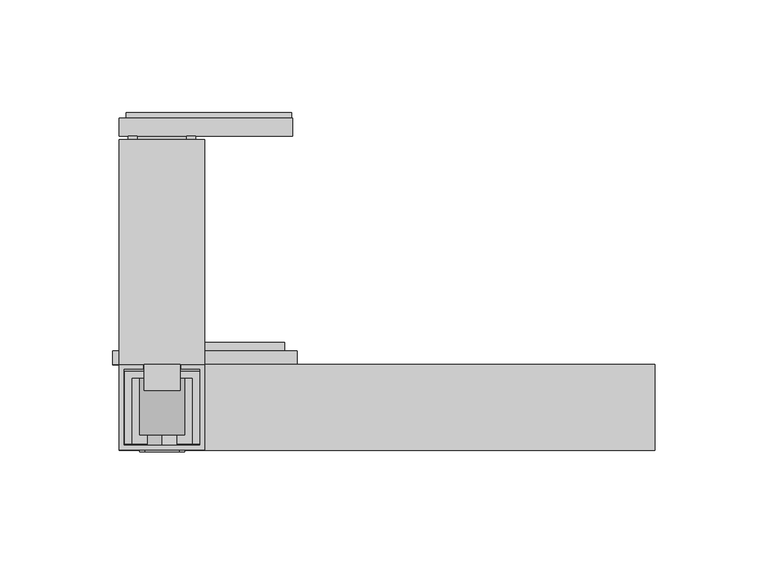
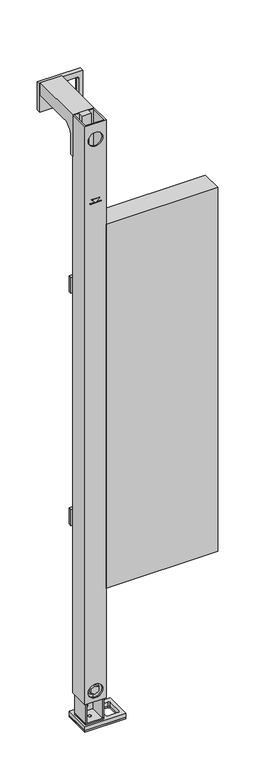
"""IFC4 building model written with IfcOpenShell, lengths in millimetres: flow terminal geometry, nextVIT Stütz-Stützklappgriff-Element : nextVIT Stütz-Stützklappgriff-Element."""

from ifc_helpers import new_model, si_unit, point, frame, frame_2d, origin, origin_with_axes, place, context, project, spatial, polyline, circle_curve, trimmed, segment, composite_curve, outline, extrude, source, transform, mapped, element, save
from ifc_brep_helpers import plane_surface, revolved_surface, advanced_brep


def flow_terminal_d5ac6e44(model_context):
    return source(origin(), model_context, "Body", "SolidModel", [
        extrude(outline(polyline([(-45.5, -102.0), (-45.5, -150.0), (-119.0, -150.0), (-119.0, -102.0), (-45.5, -102.0)]), holes=[composite_curve([segment(polyline([(-52.0, -139.0), (-52.0, -113.0)]), True, "CONTINUOUS"), segment(trimmed(circle_curve(frame_2d((-55.0, -113.0)), 3.0), [point((-52.0, -113.0))], [point((-55.0, -110.0))], True, "CARTESIAN"), True, "CONTINUOUS"), segment(polyline([(-55.0, -110.0), (-72.5, -110.0)]), True, "CONTINUOUS"), segment(trimmed(circle_curve(frame_2d((-72.5, -113.0)), 3.0), [point((-72.5, -110.0))], [point((-75.5, -113.0))], True, "CARTESIAN"), True, "CONTINUOUS"), segment(polyline([(-75.5, -113.0), (-75.5, -139.0)]), True, "CONTINUOUS"), segment(trimmed(circle_curve(frame_2d((-72.5, -139.0)), 3.0), [point((-75.5, -139.0))], [point((-72.5, -142.0))], True, "CARTESIAN"), True, "CONTINUOUS"), segment(polyline([(-72.5, -142.0), (-55.0, -142.0)]), True, "CONTINUOUS"), segment(trimmed(circle_curve(frame_2d((-55.0, -139.0)), 3.0), [point((-55.0, -142.0))], [point((-52.0, -139.0))], True, "CARTESIAN"), True, "CONTINUOUS")], self_intersect=False)]), origin_with_axes(), (0.0, 0.0, 1.0), 2.5),
        extrude(outline(polyline([(-45.5, -102.0), (-45.5, -150.0), (-119.0, -150.0), (-119.0, -102.0), (-45.5, -102.0)]), holes=[composite_curve([segment(polyline([(-52.0, -139.0), (-52.0, -113.0)]), True, "CONTINUOUS"), segment(trimmed(circle_curve(frame_2d((-55.0, -113.0)), 3.0), [point((-52.0, -113.0))], [point((-55.0, -110.0))], True, "CARTESIAN"), True, "CONTINUOUS"), segment(polyline([(-55.0, -110.0), (-72.5, -110.0)]), True, "CONTINUOUS"), segment(trimmed(circle_curve(frame_2d((-72.5, -113.0)), 3.0), [point((-72.5, -110.0))], [point((-75.5, -113.0))], True, "CARTESIAN"), True, "CONTINUOUS"), segment(polyline([(-75.5, -113.0), (-75.5, -139.0)]), True, "CONTINUOUS"), segment(trimmed(circle_curve(frame_2d((-72.5, -139.0)), 3.0), [point((-75.5, -139.0))], [point((-72.5, -142.0))], True, "CARTESIAN"), True, "CONTINUOUS"), segment(polyline([(-72.5, -142.0), (-55.0, -142.0)]), True, "CONTINUOUS"), segment(trimmed(circle_curve(frame_2d((-55.0, -139.0)), 3.0), [point((-55.0, -142.0))], [point((-52.0, -139.0))], True, "CARTESIAN"), True, "CONTINUOUS")], self_intersect=False), composite_curve([segment(polyline([(-104.7, -121.0), (-104.7, -131.0)]), True, "CONTINUOUS"), segment(trimmed(circle_curve(frame_2d((-101.45, -131.0)), 3.25), [point((-104.7, -131.0))], [point((-98.2, -131.0))], True, "CARTESIAN"), True, "CONTINUOUS"), segment(polyline([(-98.2, -131.0), (-98.2, -121.0)]), True, "CONTINUOUS"), segment(trimmed(circle_curve(frame_2d((-101.45, -121.0)), 3.25), [point((-98.2, -121.0))], [point((-104.7, -121.0))], True, "CARTESIAN"), True, "CONTINUOUS")], self_intersect=False)]), frame((0.0, 0.0, 2.5), z_axis=(0.0, 0.0, 1.0), x_axis=(1.0, 0.0, 0.0)), (0.0, 0.0, 1.0), 8.0),
        extrude(outline(polyline([(1141.522581, -42.5), (1141.522581, -116.0), (1093.522581, -116.0), (1093.522581, -42.5), (1141.522581, -42.5)]), holes=[composite_curve([segment(trimmed(circle_curve(frame_2d((1104.522581, -52.0)), 3.0), [point((1104.522581, -49.0))], [point((1101.522581, -52.0))], True, "CARTESIAN"), True, "CONTINUOUS"), segment(polyline([(1101.522581, -52.0), (1101.522581, -69.5)]), True, "CONTINUOUS"), segment(trimmed(circle_curve(frame_2d((1104.522581, -69.5)), 3.0), [point((1101.522581, -69.5))], [point((1104.522581, -72.5))], True, "CARTESIAN"), True, "CONTINUOUS"), segment(polyline([(1104.522581, -72.5), (1130.522581, -72.5)]), True, "CONTINUOUS"), segment(trimmed(circle_curve(frame_2d((1130.522581, -69.5)), 3.0), [point((1130.522581, -72.5))], [point((1133.522581, -69.5))], True, "CARTESIAN"), True, "CONTINUOUS"), segment(polyline([(1133.522581, -69.5), (1133.522581, -52.0)]), True, "CONTINUOUS"), segment(trimmed(circle_curve(frame_2d((1130.522581, -52.0)), 3.0), [point((1133.522581, -52.0))], [point((1130.522581, -49.0))], True, "CARTESIAN"), True, "CONTINUOUS"), segment(polyline([(1130.522581, -49.0), (1104.522581, -49.0)]), True, "CONTINUOUS")], self_intersect=False)]), frame((0.0, -2.5, 0.0), z_axis=(0.0, 1.0, 0.0), x_axis=(0.0, 0.0, 1.0)), (0.0, 0.0, 1.0), 2.5),
        extrude(outline(polyline([(-92.0, -112.0), (-92.0, -123.5), (-108.0, -123.5), (-108.0, -112.0), (-92.0, -112.0)])), frame((0.0, 0.0, 1113.0), z_axis=(0.0, 0.0, 1.0), x_axis=(1.0, 0.0, 0.0)), (0.0, 0.0, 1.0), 35.0),
        extrude(outline(polyline([(1144.022581, -119.0), (1091.022581, -119.0), (1091.022581, -42.0), (1144.022581, -42.0), (1144.022581, -119.0)]), holes=[composite_curve([segment(polyline([(1133.522581, -69.5), (1133.522581, -52.0)]), True, "CONTINUOUS"), segment(trimmed(circle_curve(frame_2d((1130.522581, -52.0)), 3.0), [point((1133.522581, -52.0))], [point((1130.522581, -49.0))], True, "CARTESIAN"), True, "CONTINUOUS"), segment(polyline([(1130.522581, -49.0), (1104.522581, -49.0)]), True, "CONTINUOUS"), segment(trimmed(circle_curve(frame_2d((1104.522581, -52.0)), 3.0), [point((1104.522581, -49.0))], [point((1101.522581, -52.0))], True, "CARTESIAN"), True, "CONTINUOUS"), segment(polyline([(1101.522581, -52.0), (1101.522581, -69.5)]), True, "CONTINUOUS"), segment(trimmed(circle_curve(frame_2d((1104.522581, -69.5)), 3.0), [point((1101.522581, -69.5))], [point((1104.522581, -72.5))], True, "CARTESIAN"), True, "CONTINUOUS"), segment(polyline([(1104.522581, -72.5), (1130.522581, -72.5)]), True, "CONTINUOUS"), segment(trimmed(circle_curve(frame_2d((1130.522581, -69.5)), 3.0), [point((1130.522581, -72.5))], [point((1133.522581, -69.5))], True, "CARTESIAN"), True, "CONTINUOUS")], self_intersect=False)]), frame((0.0, -10.5, 0.0), z_axis=(0.0, 1.0, 0.0), x_axis=(0.0, 0.0, 1.0)), (0.0, 0.0, 1.0), 8.0),
        extrude(outline(polyline([(1128.022581, -89.05), (1128.022581, -110.95), (1145.0, -110.95), (1145.0, -114.95), (1124.5225837, -114.95), (1124.5225837, -85.05), (1145.0, -85.05), (1145.0, -89.05), (1128.022581, -89.05)])), frame((0.0, -105.0, 0.0), z_axis=(0.0, 1.0, 0.0), x_axis=(0.0, 0.0, 1.0)), (0.0, 0.0, 1.0), 94.5),
        advanced_brep(
        [(-81.0, -12.0882353, 1124.0), (-81.0, -12.0882353, 1148.0), (-81.0, -112.0, 1148.0), (-81.0, -112.0, 1069.0231613), (-81.0, -106.0, 1069.0231613), (-81.0, -106.0, 1104.0), (-81.0, -86.0, 1124.0), (-119.0, -12.0882353, 1124.0), (-119.0, -86.0, 1124.0), (-119.0, -106.0, 1104.0), (-119.0, -106.0, 1069.0231613), (-119.0, -112.0, 1069.0231613), (-119.0, -112.0, 1148.0), (-119.0, -12.0882353, 1148.0), (-84.0, -12.0882353, 1124.0), (-84.0, -12.0882353, 1144.0), (-116.0, -12.0882353, 1144.0), (-116.0, -12.0882353, 1124.0), (-116.0, -106.0, 1104.0), (-116.0, -106.0, 1144.0), (-84.0, -106.0, 1144.0), (-84.0, -106.0, 1104.0), (-84.0, -86.0, 1124.0), (-116.0, -86.0, 1124.0)],
        [
            (0, 1),
            (1, 2),
            (2, 3),
            (3, 4),
            (4, 5),
            (5, 6, circle_curve(frame((-81.0, -86.0, 1104.0), z_axis=(-1.0, 0.0, 0.0), x_axis=(0.0, 1.0, 0.0)), 20.0)),
            (6, 0),
            (7, 8),
            (8, 9, circle_curve(frame((-119.0, -86.0, 1104.0), z_axis=(1.0, 0.0, 0.0), x_axis=(0.0, 1.0, 0.0)), 20.0)),
            (9, 10),
            (10, 11),
            (11, 12),
            (12, 13),
            (13, 7),
            (0, 14),
            (14, 15),
            (15, 16),
            (16, 17),
            (17, 7),
            (13, 1),
            (12, 2),
            (11, 3),
            (10, 4),
            (9, 18),
            (18, 19),
            (19, 20),
            (20, 21),
            (21, 5),
            (21, 22, circle_curve(frame((-84.0, -86.0, 1104.0), z_axis=(-1.0, 0.0, 0.0), x_axis=(0.0, 1.0, 0.0)), 20.0)),
            (22, 6),
            (8, 23),
            (23, 18, circle_curve(frame((-116.0, -86.0, 1104.0), z_axis=(1.0, 0.0, 0.0), x_axis=(0.0, 1.0, 0.0)), 20.0)),
            (22, 14),
            (17, 23),
            (20, 15),
            (19, 16),
        ],
        [
            plane_surface(frame((-81.0, -12.0882353, 1124.0), z_axis=(1.0, 0.0, 0.0), x_axis=(0.0, 0.0, 1.0))),
            plane_surface(frame((-119.0, -12.0882353, 1124.0), z_axis=(-1.0, 0.0, 0.0), x_axis=(0.0, 0.0, -1.0))),
            plane_surface(frame((-81.0, -12.0882353, 1124.0), z_axis=(0.0, 1.0, 0.0), x_axis=(-1.0, 0.0, 0.0))),
            plane_surface(frame((-81.0, -12.0882353, 1148.0), z_axis=(0.0, 0.0, 1.0), x_axis=(-1.0, 0.0, 0.0))),
            plane_surface(frame((-81.0, -112.0, 1148.0), z_axis=(0.0, -1.0, 0.0), x_axis=(-1.0, 0.0, 0.0))),
            plane_surface(frame((-81.0, -112.0, 1069.0231613), z_axis=(0.0, 0.0, -1.0), x_axis=(-1.0, 0.0, 0.0))),
            plane_surface(frame((-81.0, -106.0, 1069.0231613), z_axis=(0.0, 1.0, 0.0), x_axis=(-1.0, 0.0, 0.0))),
            revolved_surface(polyline([(-84.0, -66.0, 1104.0), (-81.0, -66.0, 1104.0)]), (-119.0, -86.0, 1104.0), (-1.0, 0.0, 0.0)),
            revolved_surface(polyline([(-119.0, -66.0, 1104.0), (-116.0, -66.0, 1104.0)]), (-119.0, -86.0, 1104.0), (-1.0, 0.0, 0.0)),
            plane_surface(frame((-81.0, -86.0, 1124.0), z_axis=(0.0, 0.0, -1.0), x_axis=(-1.0, 0.0, 0.0))),
            plane_surface(frame((-84.0, -106.0, 1102.9875977), z_axis=(-1.0, 0.0, 0.0), x_axis=(0.0, 1.0, 0.0))),
            plane_surface(frame((-84.0, -106.0, 1144.0), z_axis=(0.0, 0.0, -1.0), x_axis=(0.0, 1.0, 0.0))),
            plane_surface(frame((-116.0, -106.0, 1144.0), z_axis=(1.0, 0.0, 0.0), x_axis=(0.0, 1.0, 0.0))),
        ],
        [
            (0, [[1, 2, 3, 4, 5, 6, 7]]),
            (1, [[8, 9, 10, 11, 12, 13, 14]]),
            (2, [[-1, 15, 16, 17, 18, 19, -14, 20]]),
            (3, [[-2, -20, -13, 21]]),
            (4, [[-3, -21, -12, 22]]),
            (5, [[-4, -22, -11, 23]]),
            (6, [[-5, -23, -10, 24, 25, 26, 27, 28]]),
            (7, [[-6, -28, 29, 30]]),
            (8, [[-9, 31, 32, -24]]),
            (9, [[-7, -30, 33, -15]]),
            (9, [[-8, -19, 34, -31]]),
            (10, [[35, -16, -33, -29, -27]]),
            (11, [[-26, 36, -17, -35]]),
            (12, [[-36, -25, -32, -34, -18]]),
        ],
    ),
        extrude(outline(polyline([(79.7055535, -100.0), (75.9527767, -106.5), (68.4472233, -106.5), (64.6944465, -100.0), (68.4472233, -93.5), (75.9527767, -93.5), (79.7055535, -100.0)])), frame((0.0, -148.3, 0.0), z_axis=(0.0, 1.0, 0.0), x_axis=(0.0, 0.0, 1.0)), (0.0, 0.0, 1.0), 5.3),
        extrude(outline(composite_curve([segment(trimmed(circle_curve(frame_2d((72.2, -100.0)), 10.0), [point((72.2, -110.0))], [point((72.2, -90.0))], False, "CARTESIAN"), True, "CONTINUOUS"), segment(trimmed(circle_curve(frame_2d((72.2, -100.0)), 10.0), [point((72.2, -90.0))], [point((72.2, -110.0))], False, "CARTESIAN"), True, "CONTINUOUS")], self_intersect=False)), frame((0.0, -143.0, 0.0), z_axis=(0.0, 1.0, 0.0), x_axis=(0.0, 0.0, 1.0)), (0.0, 0.0, 1.0), 26.0),
        extrude(outline(polyline([(-115.0, -109.0), (-85.0, -109.0), (-85.0, -112.0), (-115.0, -112.0), (-115.0, -109.0)])), frame((0.0, 0.0, 52.2), z_axis=(0.0, 0.0, 1.0), x_axis=(1.0, 0.0, 0.0)), (0.0, 0.0, 1.0), 40.0),
        extrude(outline(composite_curve([segment(trimmed(circle_curve(frame_2d((72.2, -100.0)), 4.0), [point((72.2, -104.0))], [point((72.2, -96.0))], False, "CARTESIAN"), True, "CONTINUOUS"), segment(trimmed(circle_curve(frame_2d((72.2, -100.0)), 4.0), [point((72.2, -96.0))], [point((72.2, -104.0))], False, "CARTESIAN"), True, "CONTINUOUS")], self_intersect=False)), frame((0.0, -117.0, 0.0), z_axis=(0.0, 1.0, 0.0), x_axis=(0.0, 0.0, 1.0)), (0.0, 0.0, 1.0), 19.0),
        extrude(outline(polyline([(-83.4, -147.1), (-116.6, -147.1), (-116.6, -114.9), (-83.4, -114.9), (-83.4, -147.1)]), holes=[composite_curve([segment(trimmed(circle_curve(frame_2d((-100.0, -131.9)), 2.5), [point((-97.5, -131.9))], [point((-102.5, -131.9))], True, "CARTESIAN"), True, "CONTINUOUS"), segment(trimmed(circle_curve(frame_2d((-100.0, -131.9)), 2.5), [point((-102.5, -131.9))], [point((-97.5, -131.9))], True, "CARTESIAN"), True, "CONTINUOUS")], self_intersect=False)]), frame((0.0, 0.0, 10.5), z_axis=(0.0, 0.0, 1.0), x_axis=(1.0, 0.0, 0.0)), (0.0, 0.0, 1.0), 3.0),
        advanced_brep(
        [(-113.6, -147.1, 363.5), (-113.6, -117.9, 363.5), (-86.4, -117.9, 363.5), (-86.4, -147.1, 363.5), (-83.4, -147.1, 363.5), (-83.4, -114.9, 363.5), (-116.6, -114.9, 363.5), (-116.6, -147.1, 363.5), (-113.6, -147.1, 13.5), (-116.6, -147.1, 13.5), (-116.6, -114.9, 13.5), (-83.4, -114.9, 13.5), (-83.4, -147.1, 13.5), (-86.4, -147.1, 13.5), (-86.4, -117.9, 13.5), (-113.6, -117.9, 13.5), (-95.5, -114.9, 23.6801435), (-104.5, -114.9, 23.6801435), (-95.0, -114.9, 37.7), (-95.0, -114.9, 335.5), (-105.0, -114.9, 335.5), (-105.0, -114.9, 37.7), (-104.5, -117.9, 23.6801435), (-95.5, -117.9, 23.6801435), (-95.0, -117.9, 335.5), (-95.0, -117.9, 37.7), (-105.0, -117.9, 37.7), (-105.0, -117.9, 335.5)],
        [
            (0, 1),
            (1, 2),
            (2, 3),
            (3, 4),
            (4, 5),
            (5, 6),
            (6, 7),
            (7, 0),
            (8, 9),
            (9, 10),
            (10, 11),
            (11, 12),
            (12, 13),
            (13, 14),
            (14, 15),
            (15, 8),
            (4, 12),
            (11, 5),
            (10, 6),
            (16, 17, circle_curve(frame((-100.0, -114.9, 23.6801435), z_axis=(0.0, -1.0, 0.0), x_axis=(-1.0, 0.0, 0.0)), 4.5)),
            (17, 16, circle_curve(frame((-100.0, -114.9, 23.6801435), z_axis=(0.0, -1.0, 0.0), x_axis=(-1.0, 0.0, 0.0)), 4.5)),
            (18, 19),
            (19, 20, circle_curve(frame((-100.0, -114.9, 335.5), z_axis=(0.0, -1.0, 0.0), x_axis=(-1.0, 0.0, 0.0)), 5.0)),
            (20, 21),
            (21, 18, circle_curve(frame((-100.0, -114.9, 37.7), z_axis=(0.0, -1.0, 0.0), x_axis=(-1.0, 0.0, 0.0)), 5.0)),
            (9, 7),
            (8, 0),
            (15, 1),
            (14, 2),
            (22, 23, circle_curve(frame((-100.0, -117.9, 23.6801435), z_axis=(0.0, 1.0, 0.0), x_axis=(-1.0, 0.0, 0.0)), 4.5)),
            (23, 22, circle_curve(frame((-100.0, -117.9, 23.6801435), z_axis=(0.0, 1.0, 0.0), x_axis=(-1.0, 0.0, 0.0)), 4.5)),
            (24, 25),
            (25, 26, circle_curve(frame((-100.0, -117.9, 37.7), z_axis=(0.0, 1.0, 0.0), x_axis=(-1.0, 0.0, 0.0)), 5.0)),
            (26, 27),
            (27, 24, circle_curve(frame((-100.0, -117.9, 335.5), z_axis=(0.0, 1.0, 0.0), x_axis=(-1.0, 0.0, 0.0)), 5.0)),
            (13, 3),
            (22, 17),
            (16, 23),
            (24, 19),
            (18, 25),
            (27, 20),
            (26, 21),
        ],
        [
            plane_surface(frame((-113.6, -147.1, 363.5), z_axis=(0.0, 0.0, 1.0), x_axis=(0.0, 1.0, 0.0))),
            plane_surface(frame((-113.6, -147.1, 13.5), z_axis=(0.0, 0.0, -1.0), x_axis=(0.0, -1.0, 0.0))),
            plane_surface(frame((-83.4, -147.1, 363.5), z_axis=(1.0, 0.0, 0.0), x_axis=(0.0, 0.0, -1.0))),
            plane_surface(frame((-83.4, -114.9, 363.5), z_axis=(0.0, 1.0, 0.0), x_axis=(0.0, 0.0, -1.0))),
            plane_surface(frame((-116.6, -114.9, 363.5), z_axis=(-1.0, 0.0, 0.0), x_axis=(0.0, 0.0, -1.0))),
            plane_surface(frame((-116.6, -147.1, 363.5), z_axis=(0.0, -1.0, 0.0), x_axis=(0.0, 0.0, -1.0))),
            plane_surface(frame((-113.6, -147.1, 363.5), z_axis=(1.0, 0.0, 0.0), x_axis=(0.0, 0.0, -1.0))),
            plane_surface(frame((-113.6, -117.9, 363.5), z_axis=(0.0, -1.0, 0.0), x_axis=(0.0, 0.0, -1.0))),
            plane_surface(frame((-86.4, -117.9, 363.5), z_axis=(-1.0, 0.0, 0.0), x_axis=(0.0, 0.0, -1.0))),
            plane_surface(frame((-86.4, -147.1, 363.5), z_axis=(0.0, -1.0, 0.0), x_axis=(0.0, 0.0, -1.0))),
            revolved_surface(polyline([(-104.5, -117.9, 23.6801435), (-104.5, -114.9, 23.6801435)]), (-100.0, -117.9, 23.6801435), (0.0, -1.0, 0.0)),
            plane_surface(frame((-95.0, -117.9, 37.7), z_axis=(-1.0, 0.0, 0.0), x_axis=(0.0, 1.0, 0.0))),
            revolved_surface(polyline([(-105.0, -117.9, 335.5), (-105.0, -114.9, 335.5)]), (-100.0, -117.9, 335.5), (0.0, -1.0, 0.0)),
            plane_surface(frame((-105.0, -117.9, 335.5), z_axis=(1.0, 0.0, 0.0), x_axis=(0.0, 1.0, 0.0))),
            revolved_surface(polyline([(-105.0, -117.9, 37.7), (-105.0, -114.9, 37.7)]), (-100.0, -117.9, 37.7), (0.0, -1.0, 0.0)),
        ],
        [
            (0, [[1, 2, 3, 4, 5, 6, 7, 8]]),
            (1, [[9, 10, 11, 12, 13, 14, 15, 16]]),
            (2, [[-5, 17, -12, 18]]),
            (3, [[-6, -18, -11, 19], [20, 21], [22, 23, 24, 25]]),
            (4, [[-7, -19, -10, 26]]),
            (5, [[-8, -26, -9, 27]]),
            (6, [[-1, -27, -16, 28]]),
            (7, [[-2, -28, -15, 29], [30, 31], [32, 33, 34, 35]]),
            (8, [[-3, -29, -14, 36]]),
            (9, [[-4, -36, -13, -17]]),
            (10, [[37, -20, 38, -30]]),
            (10, [[-37, -31, -38, -21]]),
            (11, [[39, -22, 40, -32]]),
            (12, [[-39, -35, 41, -23]]),
            (13, [[-41, -34, 42, -24]]),
            (14, [[-40, -25, -42, -33]]),
        ],
    ),
        extrude(outline(polyline([(998.0, -90.0), (998.8, -90.0), (998.8, -99.2), (1005.5, -92.5), (1005.5, -107.5), (998.8, -100.8), (998.8, -109.9917762), (998.0, -109.9917762), (998.0, -90.0)])), frame((0.0, -150.8323234, 0.0), z_axis=(0.0, 1.0, 0.0), x_axis=(0.0, 0.0, 1.0)), (0.0, 0.0, 1.0), 0.8323234),
        advanced_brep(
        [(-119.0, -112.0, 1148.0), (-119.0, -150.0, 1148.0), (-81.0, -150.0, 1148.0), (-81.0, -112.0, 1148.0), (-91.5, -112.0, 1148.0), (-91.5, -114.0, 1148.0), (-83.0, -114.0, 1148.0), (-83.0, -148.0, 1148.0), (-117.0, -148.0, 1148.0), (-117.0, -114.0, 1148.0), (-108.5, -114.0, 1148.0), (-108.5, -112.0, 1148.0), (-119.0, -112.0, 52.0), (-108.5, -112.0, 52.0), (-108.5, -114.0, 52.0), (-117.0, -114.0, 52.0), (-117.0, -148.0, 52.0), (-83.0, -148.0, 52.0), (-83.0, -114.0, 52.0), (-91.5, -114.0, 52.0), (-91.5, -112.0, 52.0), (-81.0, -112.0, 52.0), (-81.0, -150.0, 52.0), (-119.0, -150.0, 52.0), (-87.0, -150.0, 72.0), (-113.0, -150.0, 72.0), (-87.0, -150.0, 1118.0), (-113.0, -150.0, 1118.0), (-113.0, -148.0, 72.0), (-87.0, -148.0, 72.0), (-113.0, -148.0, 1118.0), (-87.0, -148.0, 1118.0)],
        [
            (0, 1),
            (1, 2),
            (2, 3),
            (3, 4),
            (4, 5),
            (5, 6),
            (6, 7),
            (7, 8),
            (8, 9),
            (9, 10),
            (10, 11),
            (11, 0),
            (12, 13),
            (13, 14),
            (14, 15),
            (15, 16),
            (16, 17),
            (17, 18),
            (18, 19),
            (19, 20),
            (20, 21),
            (21, 22),
            (22, 23),
            (23, 12),
            (0, 12),
            (23, 1),
            (22, 2),
            (24, 25, circle_curve(frame((-100.0, -150.0, 72.0), z_axis=(0.0, 1.0, 0.0), x_axis=(1.0, 0.0, 0.0)), 13.0)),
            (25, 24, circle_curve(frame((-100.0, -150.0, 72.0), z_axis=(0.0, 1.0, 0.0), x_axis=(1.0, 0.0, 0.0)), 13.0)),
            (26, 27, circle_curve(frame((-100.0, -150.0, 1118.0), z_axis=(0.0, 1.0, 0.0), x_axis=(1.0, 0.0, 0.0)), 13.0)),
            (27, 26, circle_curve(frame((-100.0, -150.0, 1118.0), z_axis=(0.0, 1.0, 0.0), x_axis=(1.0, 0.0, 0.0)), 13.0)),
            (21, 3),
            (20, 4),
            (19, 5),
            (18, 6),
            (17, 7),
            (16, 8),
            (28, 29, circle_curve(frame((-100.0, -148.0, 72.0), z_axis=(0.0, -1.0, 0.0), x_axis=(1.0, 0.0, 0.0)), 13.0)),
            (29, 28, circle_curve(frame((-100.0, -148.0, 72.0), z_axis=(0.0, -1.0, 0.0), x_axis=(1.0, 0.0, 0.0)), 13.0)),
            (30, 31, circle_curve(frame((-100.0, -148.0, 1118.0), z_axis=(0.0, -1.0, 0.0), x_axis=(1.0, 0.0, 0.0)), 13.0)),
            (31, 30, circle_curve(frame((-100.0, -148.0, 1118.0), z_axis=(0.0, -1.0, 0.0), x_axis=(1.0, 0.0, 0.0)), 13.0)),
            (15, 9),
            (14, 10),
            (13, 11),
            (28, 25),
            (24, 29),
            (30, 27),
            (26, 31),
        ],
        [
            plane_surface(frame((-119.0, -150.0, 1148.0), z_axis=(0.0, 0.0, 1.0), x_axis=(0.0, -1.0, 0.0))),
            plane_surface(frame((-119.0, -150.0, 52.0), z_axis=(0.0, 0.0, -1.0), x_axis=(0.0, 1.0, 0.0))),
            plane_surface(frame((-119.0, -112.0, 1148.0), z_axis=(-1.0, 0.0, 0.0), x_axis=(0.0, 0.0, -1.0))),
            plane_surface(frame((-119.0, -150.0, 1148.0), z_axis=(0.0, -1.0, 0.0), x_axis=(0.0, 0.0, -1.0))),
            plane_surface(frame((-81.0, -150.0, 1148.0), z_axis=(1.0, 0.0, 0.0), x_axis=(0.0, 0.0, -1.0))),
            plane_surface(frame((-81.0, -112.0, 1148.0), z_axis=(0.0, 1.0, 0.0), x_axis=(0.0, 0.0, -1.0))),
            plane_surface(frame((-91.5, -112.0, 1148.0), z_axis=(-1.0, 0.0, 0.0), x_axis=(0.0, 0.0, -1.0))),
            plane_surface(frame((-91.5, -114.0, 1148.0), z_axis=(0.0, -1.0, 0.0), x_axis=(0.0, 0.0, -1.0))),
            plane_surface(frame((-83.0, -114.0, 1148.0), z_axis=(-1.0, 0.0, 0.0), x_axis=(0.0, 0.0, -1.0))),
            plane_surface(frame((-83.0, -148.0, 1148.0), z_axis=(0.0, 1.0, 0.0), x_axis=(0.0, 0.0, -1.0))),
            plane_surface(frame((-117.0, -148.0, 1148.0), z_axis=(1.0, 0.0, 0.0), x_axis=(0.0, 0.0, -1.0))),
            plane_surface(frame((-117.0, -114.0, 1148.0), z_axis=(0.0, -1.0, 0.0), x_axis=(0.0, 0.0, -1.0))),
            plane_surface(frame((-108.5, -114.0, 1148.0), z_axis=(1.0, 0.0, 0.0), x_axis=(0.0, 0.0, -1.0))),
            plane_surface(frame((-108.5, -112.0, 1148.0), z_axis=(0.0, 1.0, 0.0), x_axis=(0.0, 0.0, -1.0))),
            revolved_surface(polyline([(-87.0, -148.0, 72.0), (-87.0, -150.0, 72.0)]), (-100.0, -148.0, 72.0), (0.0, 1.0, 0.0)),
            revolved_surface(polyline([(-87.0, -148.0, 1118.0), (-87.0, -150.0, 1118.0)]), (-100.0, -148.0, 1118.0), (0.0, 1.0, 0.0)),
        ],
        [
            (0, [[1, 2, 3, 4, 5, 6, 7, 8, 9, 10, 11, 12]]),
            (1, [[13, 14, 15, 16, 17, 18, 19, 20, 21, 22, 23, 24]]),
            (2, [[-1, 25, -24, 26]]),
            (3, [[-2, -26, -23, 27], [28, 29], [30, 31]]),
            (4, [[-3, -27, -22, 32]]),
            (5, [[-4, -32, -21, 33]]),
            (6, [[-5, -33, -20, 34]]),
            (7, [[-6, -34, -19, 35]]),
            (8, [[-7, -35, -18, 36]]),
            (9, [[-8, -36, -17, 37], [38, 39], [40, 41]]),
            (10, [[-9, -37, -16, 42]]),
            (11, [[-10, -42, -15, 43]]),
            (12, [[-11, -43, -14, 44]]),
            (13, [[-12, -44, -13, -25]]),
            (14, [[45, -28, 46, -38]]),
            (14, [[-45, -39, -46, -29]]),
            (15, [[47, -30, 48, -40]]),
            (15, [[-47, -41, -48, -31]]),
        ],
    ),
        extrude(outline(polyline([(119.0, -112.0), (119.0, -150.0), (-81.0, -150.0), (-81.0, -112.0), (119.0, -112.0)])), frame((0.0, 0.0, 260.0), z_axis=(0.0, 0.0, 1.0), x_axis=(1.0, 0.0, 0.0)), (0.0, 0.0, 1.0), 690.0),
        extrude(outline(polyline([(840.0, -122.0), (810.0, -122.0), (810.0, -40.0), (840.0, -40.0), (840.0, -122.0)]), holes=[composite_curve([segment(trimmed(circle_curve(frame_2d((825.0, -55.0)), 5.0), [point((825.0, -60.0))], [point((825.0, -50.0))], True, "CARTESIAN"), True, "CONTINUOUS"), segment(trimmed(circle_curve(frame_2d((825.0, -55.0)), 5.0), [point((825.0, -50.0))], [point((825.0, -60.0))], True, "CARTESIAN"), True, "CONTINUOUS")], self_intersect=False), composite_curve([segment(trimmed(circle_curve(frame_2d((825.0, -104.0)), 4.5), [point((825.0, -108.5))], [point((825.0, -99.5))], True, "CARTESIAN"), True, "CONTINUOUS"), segment(trimmed(circle_curve(frame_2d((825.0, -104.0)), 4.5), [point((825.0, -99.5))], [point((825.0, -108.5))], True, "CARTESIAN"), True, "CONTINUOUS")], self_intersect=False)]), frame((0.0, -112.0, 0.0), z_axis=(0.0, 1.0, 0.0), x_axis=(0.0, 0.0, 1.0)), (0.0, 0.0, 1.0), 6.0),
        extrude(outline(polyline([(400.0, -40.0), (400.0, -122.0), (370.0, -122.0), (370.0, -40.0), (400.0, -40.0)]), holes=[composite_curve([segment(trimmed(circle_curve(frame_2d((385.0, -55.0)), 5.0), [point((385.0, -50.0))], [point((385.0, -60.0))], True, "CARTESIAN"), True, "CONTINUOUS"), segment(trimmed(circle_curve(frame_2d((385.0, -55.0)), 5.0), [point((385.0, -60.0))], [point((385.0, -50.0))], True, "CARTESIAN"), True, "CONTINUOUS")], self_intersect=False), composite_curve([segment(trimmed(circle_curve(frame_2d((385.0, -104.0)), 4.5), [point((385.0, -99.5))], [point((385.0, -108.5))], True, "CARTESIAN"), True, "CONTINUOUS"), segment(trimmed(circle_curve(frame_2d((385.0, -104.0)), 4.5), [point((385.0, -108.5))], [point((385.0, -99.5))], True, "CARTESIAN"), True, "CONTINUOUS")], self_intersect=False)]), frame((0.0, -112.0, 0.0), z_axis=(0.0, 1.0, 0.0), x_axis=(0.0, 0.0, 1.0)), (0.0, 0.0, 1.0), 6.0),
    ])


if __name__ == "__main__":
    model = new_model("IFC4")
    model_context = context("Model", 3, world=origin())
    ifc_project = project(units=[si_unit("LENGTHUNIT", "METRE", prefix="MILLI")], contexts=[model_context])
    site = spatial("IfcSite", under=ifc_project)
    building = spatial("IfcBuilding", under=site)
    placement = place(None, origin())
    flow_terminal_shape = flow_terminal_d5ac6e44(model_context)
    element("IfcFlowTerminal", 1, ObjectType="nextVIT Stütz-Stützklappgriff-Element : nextVIT Stütz-Stützklappgriff-Element", at=placement, inside=building, context=model_context, shape_type="MappedRepresentation", body=[
        mapped(flow_terminal_shape, transform((0.0, 0.0, 0.0), x_axis=(1.0, 0.0, 0.0), y_axis=(0.0, 1.0, 0.0), z_axis=(0.0, 0.0, 1.0))),
    ])
    save(model, "model.ifc")
